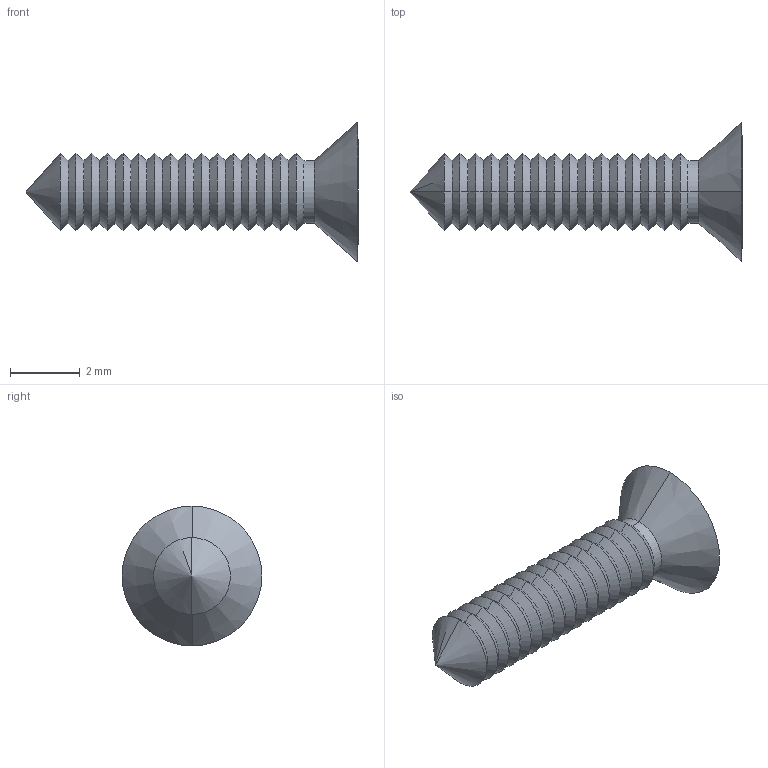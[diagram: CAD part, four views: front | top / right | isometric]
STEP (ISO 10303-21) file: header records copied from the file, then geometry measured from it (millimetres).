
FILE_DESCRIPTION (( 'STEP AP214' ), '1' );
FILE_NAME ('Cargol M 3x8 PP46.STEP', '2016-10-09T09:14:38', ( 'aaa' ), ( '' ), 'SwSTEP 2.0', 'SolidWorks 2013', '' );
FILE_SCHEMA (( 'AUTOMOTIVE_DESIGN' ));
Length unit declared in the file: millimetre
Products named in the file (1): Cargol M 3x8 PP46
Bounding box: 9.5 x 4 x 4 mm (x, y, z)
Volume: 31.8 mm3; surface area: 96.7 mm2
Topology: 1 solids, 1 shells, 82 faces, 174 edges, 93 vertices
Faces by surface type: cone 66, plane 14, cylinder 2
Entity records: 2158 total; most frequent: DIRECTION 406, CARTESIAN_POINT 348, ORIENTED_EDGE 344, EDGE_CURVE 172, AXIS2_PLACEMENT_3D 151, VECTOR 104, LINE 104, VERTEX_POINT 93
